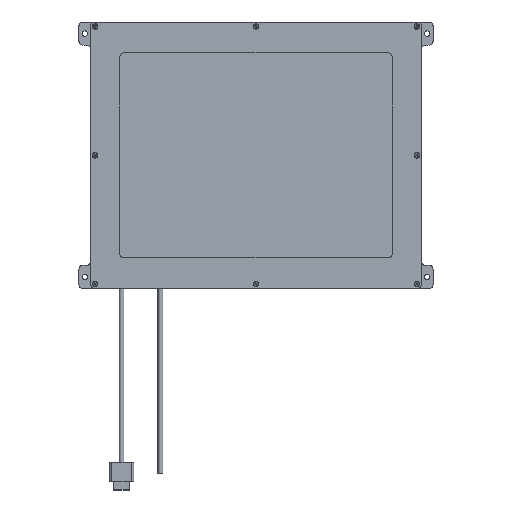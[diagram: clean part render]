
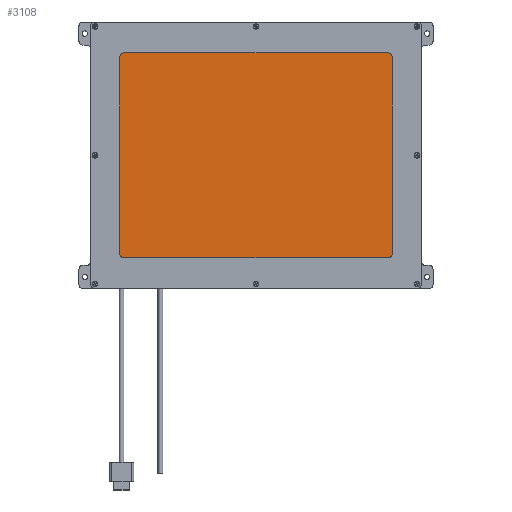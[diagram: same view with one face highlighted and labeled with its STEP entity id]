
A CAD part, top view. The second image highlights one B-rep face of the part: STEP entity #3108.
In plain terms, the highlighted planar face has unit normal (0, 0, 1).
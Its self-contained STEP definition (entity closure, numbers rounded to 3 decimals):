
#3108=ADVANCED_FACE('',(#9116),#9117,.F.);
#9116=FACE_OUTER_BOUND('',#18239,.T.);
#9117=PLANE('',#18240);
#18239=EDGE_LOOP('',(#27866,#27867,#27868,#27869));
#18240=AXIS2_PLACEMENT_3D('',#27870,#27871,#27872);
#27866=ORIENTED_EDGE('',*,*,#50262,.F.);
#27867=ORIENTED_EDGE('',*,*,#50267,.F.);
#27868=ORIENTED_EDGE('',*,*,#50271,.F.);
#27869=ORIENTED_EDGE('',*,*,#50274,.F.);
#27870=CARTESIAN_POINT('',(1.,0.,9.9));
#27871=DIRECTION('',(0.0,0.0,-1.0));
#27872=DIRECTION('',(0.0,-1.0,0.0));
#50262=EDGE_CURVE('',#58097,#58099,#58100,.T.);
#50267=EDGE_CURVE('',#58105,#58097,#58107,.T.);
#50271=EDGE_CURVE('',#58111,#58105,#58113,.T.);
#50274=EDGE_CURVE('',#58099,#58111,#58116,.T.);
#58097=VERTEX_POINT('',#69164);
#58099=VERTEX_POINT('',#69167);
#58100=LINE('',#69168,#69169);
#58105=VERTEX_POINT('',#69176);
#58107=LINE('',#69179,#69180);
#58111=VERTEX_POINT('',#69185);
#58113=LINE('',#69188,#69189);
#58116=LINE('',#69193,#69194);
#69164=CARTESIAN_POINT('',(111.775,86.1,9.9));
#69167=CARTESIAN_POINT('',(111.775,-86.1,9.9));
#69168=CARTESIAN_POINT('',(111.775,86.1,9.9));
#69169=VECTOR('',#84135,39.37);
#69176=CARTESIAN_POINT('',(-109.775,86.1,9.9));
#69179=CARTESIAN_POINT('',(-109.775,86.1,9.9));
#69180=VECTOR('',#84139,39.37);
#69185=CARTESIAN_POINT('',(-109.775,-86.1,9.9));
#69188=CARTESIAN_POINT('',(-109.775,-86.1,9.9));
#69189=VECTOR('',#84142,39.37);
#69193=CARTESIAN_POINT('',(111.775,-86.1,9.9));
#69194=VECTOR('',#84144,39.37);
#84135=DIRECTION('',(0.0,-1.0,0.0));
#84139=DIRECTION('',(1.0,0.0,0.0));
#84142=DIRECTION('',(0.0,1.0,0.0));
#84144=DIRECTION('',(-1.0,0.0,0.0));
